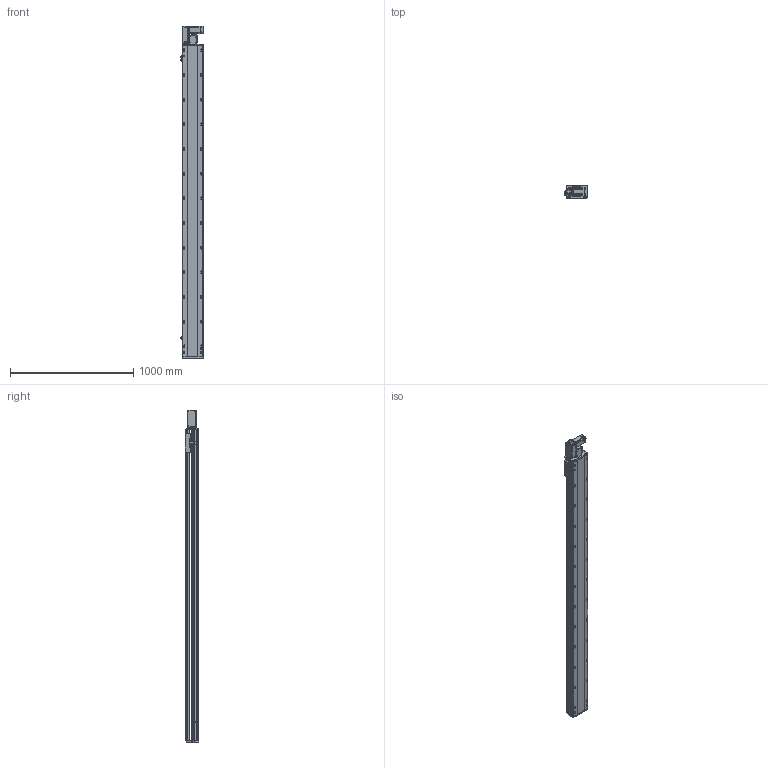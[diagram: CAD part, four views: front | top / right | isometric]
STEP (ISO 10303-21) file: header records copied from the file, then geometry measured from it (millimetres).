
FILE_DESCRIPTION (( 'STEP AP214' ), '1' );
FILE_NAME ('RTB17S-XX-2250-L-M40-C4.STEP', '2025-12-11T05:53:07', ( '' ), ( '' ), 'SwSTEP 2.0', 'SolidWorks 2018', '' );
FILE_SCHEMA (( 'AUTOMOTIVE_DESIGN' ));
Length unit declared in the file: millimetre
Products named in the file (14): RTB14-L-008-M20--电机板^RTB17S-L-皮带座装配-400W_RTB17S-XX-XX-L-M40-C4（方程式）; RTB17S-L-007上盖^RTB17S-XX-XX-L-M40-C4（方程式）; 400W伺服电机^RTB17S-XX-XX-L-M40-C4（方程式）; RTB14-L-018P^RTB17S-L-皮带座装配-400W_RTB17S-XX-XX-L-M40-C4（方程式）; RMP17S-L-014-T20--皮带座^RTB17S-L-皮带座装配-400W_RTB17S-XX-XX-L-M40-C4（方程式）; RTB17S-L-001侧面板^RTB17S-XX-XX-L-M40-C4（方程式）; RTB14-L-005P--轴承塑胶压盖^RTB17S-L-皮带座装配-400W_RTB17S-XX-XX-L-M40-C4（方程式）; RTB14-L-017P^RTB17S-L-皮带座装配-400W_RTB17S-XX-XX-L-M40-C4（方程式）; RTB17S-XX-2250-L-M40-C4; RTB17-R-011底座^RTB17S-XX-XX-L-M40-C4（方程式）; RTB17S-L-004丝杆螺母连接座^RTB17S-XX-XX-L-M40-C4（方程式）; RTH13-BL-012感应片外置^RTB17S-XX-XX-L-M40-C4（方程式）; RTB17S-L-皮带座装配-400W^RTB17S-XX-XX-L-M40-C4（方程式）; OMRON EE-SX672 传感器^RTB17S-XX-XX-L-M40-C4（方程式）
Assembly tree (16 placements, depth 3):
  RTB17S-XX-2250-L-M40-C4
    RTB17-R-011底座^RTB17S-XX-XX-L-M40-C4（方程式）
    RTB17S-L-007上盖^RTB17S-XX-XX-L-M40-C4（方程式）
    OMRON EE-SX672 传感器^RTB17S-XX-XX-L-M40-C4（方程式）  x3
    RTB17S-L-001侧面板^RTB17S-XX-XX-L-M40-C4（方程式）
    400W伺服电机^RTB17S-XX-XX-L-M40-C4（方程式）
    RTB17S-L-004丝杆螺母连接座^RTB17S-XX-XX-L-M40-C4（方程式）
    RTH13-BL-012感应片外置^RTB17S-XX-XX-L-M40-C4（方程式）
    RTB17S-L-皮带座装配-400W^RTB17S-XX-XX-L-M40-C4（方程式）
      RMP17S-L-014-T20--皮带座^RTB17S-L-皮带座装配-400W_RTB17S-XX-XX-L-M40-C4（方程式）
      RTB14-L-005P--轴承塑胶压盖^RTB17S-L-皮带座装配-400W_RTB17S-XX-XX-L-M40-C4（方程式）
      RTB14-L-008-M20--电机板^RTB17S-L-皮带座装配-400W_RTB17S-XX-XX-L-M40-C4（方程式）
      RTB14-L-017P^RTB17S-L-皮带座装配-400W_RTB17S-XX-XX-L-M40-C4（方程式）  x2
      RTB14-L-018P^RTB17S-L-皮带座装配-400W_RTB17S-XX-XX-L-M40-C4（方程式）
Bounding box: 186 x 108 x 2691 mm (x, y, z)
Volume: 22562754.5 mm3; surface area: 2611477.7 mm2
Topology: 15 solids, 15 shells, 2317 faces, 6465 edges, 4221 vertices
Faces by surface type: plane 1082, cylinder 787, bspline 301, cone 139, torus 8
Entity records: 68009 total; most frequent: CARTESIAN_POINT 19270, ORIENTED_EDGE 9774, DIRECTION 9026, EDGE_CURVE 4887, VERTEX_POINT 3209, AXIS2_PLACEMENT_3D 3139, VECTOR 2748, LINE 2748
